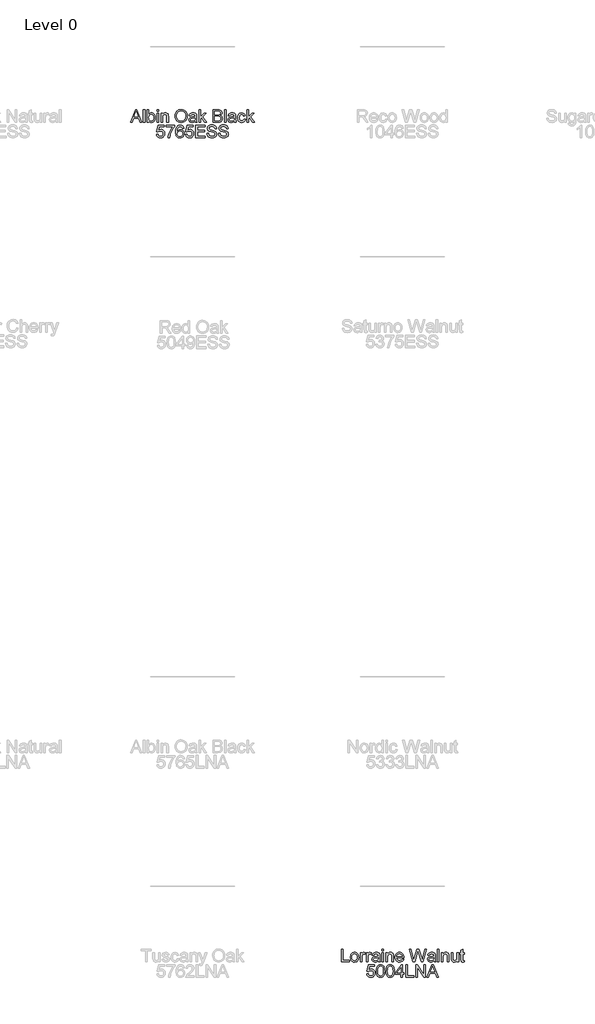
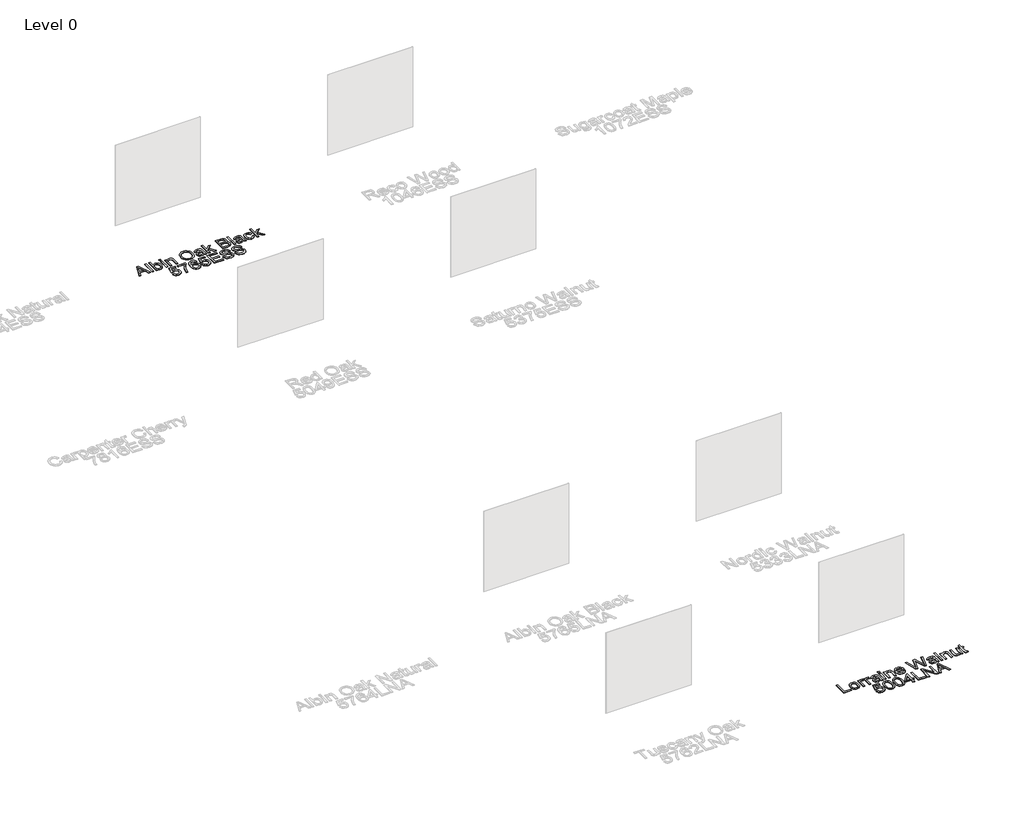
# One storey, part 37 of 43: 2 proxies.
"""IFC4 building model written with IfcOpenShell, lengths in millimetres."""

from ifc_helpers import new_model, si_unit, origin, origin_with_axes, place, context, project, spatial, polyline, outline, extrude, element, save

model = new_model("IFC4")

# Units and contexts
model_context = context("Model", 3, world=origin())
ifc_project = project(units=[si_unit("LENGTHUNIT", "METRE", prefix="MILLI")], contexts=[model_context])

# Site, building, storey
site = spatial("IfcSite", under=ifc_project)
building = spatial("IfcBuilding", under=site)
storey = spatial("IfcBuildingStorey", under=building, Name="Level 0", Elevation=0.0)

# Proxies
placement = place(None, origin())
element("IfcBuildingElementProxy", 1, Name="300mm Arial", ObjectType="300mm Arial", at=placement, inside=storey, context=model_context, shape_type="SweptSolid", body=[
    extrude(outline(polyline([(26068.6169131, -7003.860494), (26188.9143255, -6702.4915635), (26220.9936355, -6702.4915635), (26341.2910479, -7003.860494), (26301.4862161, -7003.860494), (26266.9788849, -6909.6827032), (26142.8554997, -6909.6827032), (26108.421745, -7003.860494), (26068.6169131, -7003.860494)]), holes=[polyline([(26156.6878628, -6872.0115869), (26253.2200983, -6872.0115869), (26226.070407, -6797.9201531), (26204.9539805, -6740.1626798), (26186.1919988, -6791.44543), (26156.6878628, -6872.0115869)])]), origin_with_axes(), (0.0, 0.0, 1.0), 10.0),
    extrude(outline(polyline([(26376.8284487, -7003.860494), (26376.8284487, -6702.4915635), (26414.499565, -6702.4915635), (26414.499565, -7003.860494), (26376.8284487, -7003.860494)])), origin_with_axes(), (0.0, 0.0, 1.0), 10.0),
    extrude(outline(polyline([(26508.6773557, -7003.860494), (26471.0062394, -7003.860494), (26471.0062394, -6702.4915635), (26508.6773557, -6702.4915635), (26508.6773557, -6814.2541137), (26521.0657819, -6798.3202248), (26535.0544948, -6786.9388755), (26550.6434943, -6780.110066), (26567.8327806, -6777.8337961), (26587.2385558, -6779.8847383), (26605.5774733, -6786.0375646), (26621.8010693, -6795.9059992), (26634.8608801, -6809.1037657), (26645.0971966, -6825.5021057), (26652.8503096, -6844.9722603), (26657.7339431, -6866.7048891), (26659.361821, -6889.8906519), (26657.6764616, -6916.64487), (26652.6203834, -6940.1801206), (26644.1935864, -6960.4964038), (26632.3960707, -6977.5937195), (26618.2349132, -6991.1455725), (26602.7171908, -7000.8254675), (26585.8429035, -7006.6334045), (26567.6120514, -7008.5693835), (26549.8571466, -7006.0723845), (26534.1163957, -6998.5813874), (26520.3897988, -6986.0963921), (26508.6773557, -6968.6173988), (26508.6773557, -7003.860494)]), holes=[polyline([(26508.6773557, -6891.6564855), (26511.2525297, -6923.0736078), (26518.9780516, -6944.3371872), (26528.1061236, -6955.9576597), (26538.7149206, -6964.2579972), (26550.8044427, -6969.2381997), (26564.3746898, -6970.8982672), (26586.1165157, -6966.0054367), (26604.6945565, -6951.3269451), (26617.4416676, -6926.9547629), (26621.6907047, -6892.9808606), (26617.6164116, -6858.5103177), (26605.3935323, -6834.414047), (26587.3949057, -6820.2321961), (26565.9933706, -6815.5049125), (26544.2515447, -6820.397743), (26525.6735039, -6835.0762346), (26512.9263928, -6859.0069584), (26508.6773557, -6891.6564855)])]), origin_with_axes(), (0.0, 0.0, 1.0), 10.0),
    extrude(outline(polyline([(26701.7418268, -6740.1626798), (26701.7418268, -6702.4915635), (26739.4129431, -6702.4915635), (26739.4129431, -6740.1626798), (26701.7418268, -6740.1626798)])), origin_with_axes(), (0.0, 0.0, 1.0), 10.0),
    extrude(outline(polyline([(26701.7418268, -7003.860494), (26701.7418268, -6782.5426857), (26739.4129431, -6782.5426857), (26739.4129431, -7003.860494), (26701.7418268, -7003.860494)])), origin_with_axes(), (0.0, 0.0, 1.0), 10.0),
    extrude(outline(polyline([(26795.9196176, -7003.860494), (26795.9196176, -6782.5426857), (26833.5907339, -6782.5426857), (26833.5907339, -6813.4447733), (26846.6781359, -6797.8649708), (26862.3958941, -6786.7365404), (26880.7440086, -6780.0594822), (26901.7224794, -6777.8337961), (26920.2913231, -6779.6272209), (26937.2966683, -6785.0074951), (26951.4785192, -6793.303234), (26961.57688, -6803.8430532), (26972.8708573, -6831.5445674), (26974.85742, -6867.964885), (26974.85742, -7003.860494), (26937.1863037, -7003.860494), (26937.1863037, -6873.0416565), (26932.8452962, -6839.7115477), (26926.8396226, -6829.7879309), (26917.504617, -6822.0900002), (26905.5392551, -6817.1511844), (26891.6425127, -6815.5049125), (26869.5787901, -6819.2021265), (26850.7708231, -6830.2937687), (26843.254534, -6839.3482643), (26837.8857562, -6851.7228949), (26833.5907339, -6886.4325611), (26833.5907339, -7003.860494), (26795.9196176, -7003.860494)])), origin_with_axes(), (0.0, 0.0, 1.0), 10.0),
    extrude(outline(polyline([(27134.9596643, -6857.1491543), (27137.4704589, -6821.8002931), (27145.0028428, -6790.5073309), (27157.5568159, -6763.2702677), (27175.1323782, -6740.0891034), (27196.6764675, -6721.5800406), (27221.1360217, -6708.3592814), (27248.5110407, -6700.4268258), (27278.8015244, -6697.782674), (27318.3304448, -6702.7490809), (27353.7758751, -6717.6483017), (27383.2064347, -6741.4318727), (27404.6907432, -6773.0513302), (27417.8241304, -6810.9799639), (27422.2019262, -6853.6910636), (27417.5942042, -6896.9723803), (27403.7710382, -6935.4344429), (27381.4957834, -6967.1090827), (27351.5317949, -6990.028131), (27316.3898673, -7003.9340704), (27278.5807952, -7008.5693835), (27238.4448696, -7003.4466267), (27202.7971042, -6988.0783564), (27173.440121, -6963.853327), (27152.1765417, -6932.1602931), (27139.2638837, -6895.6939903), (27134.9596643, -6857.1491543)]), holes=[polyline([(27172.6307806, -6857.5170363), (27174.5138766, -6882.4916252), (27180.1631645, -6904.661114), (27189.5786443, -6924.0255025), (27202.760316, -6940.5847908), (27218.7838762, -6953.8469367), (27236.7250212, -6963.3198981), (27256.5837512, -6969.0036749), (27278.360066, -6970.8982672), (27300.5088614, -6968.9852808), (27320.6021161, -6963.2463217), (27338.6398302, -6953.6813898), (27354.6220036, -6940.2904852), (27367.7071064, -6923.381709), (27377.0536083, -6903.2631624), (27382.6615095, -6879.9348454), (27384.5308099, -6853.396758), (27381.3302365, -6820.0482551), (27371.7285164, -6791.2247008), (27355.97397, -6767.6526619), (27334.3149175, -6750.0587055), (27308.1860988, -6739.1050191), (27279.0222536, -6735.4537903), (27258.0023961, -6737.2127261), (27238.5000519, -6742.4895335), (27220.5152208, -6751.2842124), (27204.047903, -6763.5967629), (27190.302912, -6780.0203948), (27180.4850612, -6801.1483176), (27174.5943508, -6826.9805314), (27172.6307806, -6857.5170363)])]), origin_with_axes(), (0.0, 0.0, 1.0), 10.0),
    extrude(outline(polyline([(27610.5575077, -6975.6071568), (27592.5588811, -6991.0398064), (27574.0268256, -7001.1381672), (27554.5382769, -7006.7115794), (27533.6701707, -7008.5693835), (27502.188669, -7004.0996173), (27478.966118, -6990.6903186), (27464.6463114, -6970.3280501), (27459.8730425, -6944.9993748), (27461.6756642, -6929.3827841), (27467.0835296, -6915.2009331), (27475.4252538, -6903.0608273), (27486.0294523, -6893.5694718), (27512.4065914, -6881.2086368), (27545.0009361, -6875.5432541), (27583.518181, -6869.5835657), (27610.3367785, -6862.5938078), (27610.5575077, -6854.2060983), (27607.9639396, -6837.3938912), (27600.1832354, -6826.3942195), (27582.7824171, -6818.2272392), (27558.5389936, -6815.5049125), (27536.0981919, -6817.3167313), (27520.4264189, -6822.7521878), (27509.7394469, -6832.8045633), (27502.2530483, -6848.4671392), (27464.581932, -6843.7582497), (27471.1210345, -6823.156858), (27480.8791044, -6806.9700502), (27494.7666497, -6794.590821), (27513.6941784, -6785.4121652), (27536.8431529, -6779.7283884), (27563.3950359, -6777.8337961), (27588.861667, -6779.5076592), (27609.0491915, -6784.5292485), (27624.2703091, -6792.0800264), (27634.8377194, -6801.3414556), (27641.8458714, -6812.7917827), (27646.389214, -6826.9092543), (27648.228624, -6859.8714811), (27648.228624, -6906.7396473), (27650.1416104, -6972.1858542), (27657.6464031, -7003.860494), (27619.9752868, -7003.860494), (27610.5575077, -6975.6071568)]), holes=[polyline([(27610.5575077, -6900.2649241), (27549.7834021, -6911.8164188), (27517.3729983, -6917.9232599), (27502.6945067, -6927.8560738), (27497.5441588, -6942.3506244), (27500.349259, -6953.5526311), (27508.7645596, -6962.7312869), (27522.6061197, -6968.8565221), (27541.6899982, -6970.8982672), (27561.9235079, -6968.64499), (27579.8025729, -6961.8851583), (27594.2971235, -6951.9247533), (27604.3770902, -6940.069756), (27608.8468564, -6927.8560738), (27610.3367785, -6910.933502), (27610.5575077, -6900.2649241)])]), origin_with_axes(), (0.0, 0.0, 1.0), 10.0),
    extrude(outline(polyline([(27700.0264089, -7003.860494), (27700.0264089, -6702.4915635), (27737.6975252, -6702.4915635), (27737.6975252, -6864.4332178), (27822.1632313, -6782.5426857), (27874.2553218, -6782.5426857), (27788.7595462, -6865.4632874), (27878.9642114, -7003.860494), (27834.9655247, -7003.860494), (27761.7570077, -6891.6564855), (27737.6975252, -6914.9802039), (27737.6975252, -7003.860494), (27700.0264089, -7003.860494)])), origin_with_axes(), (0.0, 0.0, 1.0), 10.0),
    extrude(outline(polyline([(28034.3575661, -7003.860494), (28034.3575661, -6702.4915635), (28149.3574778, -6702.4915635), (28180.9861324, -6704.7080526), (28205.6802113, -6711.3575196), (28224.6077399, -6722.6055116), (28238.9367437, -6738.6175755), (28247.9590496, -6757.4531336), (28250.9664849, -6777.1716086), (28248.4372962, -6795.317388), (28240.84973, -6812.3779155), (28228.1486041, -6827.3047274), (28210.2787362, -6839.0493601), (28231.625089, -6850.1961846), (28247.3980295, -6867.1555446), (28257.1377054, -6888.8054), (28260.384264, -6914.0237108), (28258.1677749, -6935.0389697), (28251.5183079, -6954.5275184), (28241.5946911, -6971.1006023), (28229.5557528, -6983.3694669), (28214.8128818, -6992.253817), (28196.777467, -6998.6733578), (28148.474561, -7003.860494), (28034.3575661, -7003.860494)]), holes=[polyline([(28072.0286824, -6824.9226915), (28140.8226155, -6824.9226915), (28180.9953294, -6821.68533), (28195.0576187, -6816.1027207), (28205.1651765, -6807.7426024), (28211.2628206, -6796.7337336), (28213.2953686, -6783.2048733), (28211.4007763, -6770.071486), (28205.7169995, -6758.630356), (28196.5015555, -6749.7000206), (28184.0119618, -6744.0990172), (28135.5986912, -6740.1626798), (28072.0286824, -6740.1626798), (28072.0286824, -6824.9226915)]), polyline([(28072.0286824, -6966.1893777), (28149.2839014, -6966.1893777), (28177.2429331, -6964.7178497), (28200.8977454, -6956.5140812), (28216.5695183, -6939.7754504), (28221.1772403, -6927.9480443), (28222.7131477, -6914.3915928), (28220.9105259, -6898.6462434), (28215.5026606, -6885.1081859), (28206.0572903, -6874.5223815), (28192.1421539, -6867.6337912), (28172.432876, -6863.8538037), (28145.6050815, -6862.5938078), (28072.0286824, -6862.5938078), (28072.0286824, -6966.1893777)])]), origin_with_axes(), (0.0, 0.0, 1.0), 10.0),
    extrude(outline(polyline([(28307.4731594, -7003.860494), (28307.4731594, -6702.4915635), (28345.1442757, -6702.4915635), (28345.1442757, -7003.860494), (28307.4731594, -7003.860494)])), origin_with_axes(), (0.0, 0.0, 1.0), 10.0),
    extrude(outline(polyline([(28542.9176363, -6975.6071568), (28524.9190097, -6991.0398064), (28506.3869541, -7001.1381672), (28486.8984055, -7006.7115794), (28466.0302993, -7008.5693835), (28434.5487975, -7004.0996173), (28411.3262466, -6990.6903186), (28397.0064399, -6970.3280501), (28392.233171, -6944.9993748), (28394.0357928, -6929.3827841), (28399.4436581, -6915.2009331), (28407.7853824, -6903.0608273), (28418.3895809, -6893.5694718), (28444.76672, -6881.2086368), (28477.3610647, -6875.5432541), (28515.8783096, -6869.5835657), (28542.6969071, -6862.5938078), (28542.9176363, -6854.2060983), (28540.3240682, -6837.3938912), (28532.543364, -6826.3942195), (28515.1425456, -6818.2272392), (28490.8991221, -6815.5049125), (28468.4583204, -6817.3167313), (28452.7865474, -6822.7521878), (28442.0995755, -6832.8045633), (28434.6131769, -6848.4671392), (28396.9420606, -6843.7582497), (28403.481163, -6823.156858), (28413.239233, -6806.9700502), (28427.1267783, -6794.590821), (28446.0543069, -6785.4121652), (28469.2032815, -6779.7283884), (28495.7551645, -6777.8337961), (28521.2217956, -6779.5076592), (28541.4093201, -6784.5292485), (28556.6304376, -6792.0800264), (28567.1978479, -6801.3414556), (28574.206, -6812.7917827), (28578.7493426, -6826.9092543), (28580.5887526, -6859.8714811), (28580.5887526, -6906.7396473), (28582.5017389, -6972.1858542), (28590.0065316, -7003.860494), (28552.3354153, -7003.860494), (28542.9176363, -6975.6071568)]), holes=[polyline([(28542.9176363, -6900.2649241), (28482.1435307, -6911.8164188), (28449.7331269, -6917.9232599), (28435.0546353, -6927.8560738), (28429.9042873, -6942.3506244), (28432.7093876, -6953.5526311), (28441.1246882, -6962.7312869), (28454.9662483, -6968.8565221), (28474.0501268, -6970.8982672), (28494.2836365, -6968.64499), (28512.1627015, -6961.8851583), (28526.6572521, -6951.9247533), (28536.7372187, -6940.069756), (28541.206985, -6927.8560738), (28542.6969071, -6910.933502), (28542.9176363, -6900.2649241)])]), origin_with_axes(), (0.0, 0.0, 1.0), 10.0),
    extrude(outline(polyline([(28773.6532236, -6923.8093718), (28811.3243399, -6928.5182614), (28800.821309, -6962.0231141), (28781.0844399, -6987.3425924), (28753.9715369, -7003.2626857), (28721.3404039, -7008.5693835), (28700.2124811, -7006.7184772), (28681.2688576, -7001.1657584), (28664.5095335, -6991.9112269), (28649.9345087, -6978.9548829), (28638.1369929, -6962.5404481), (28629.710196, -6942.9116444), (28624.6541178, -6920.0684718), (28622.9687584, -6894.0109302), (28625.847435, -6860.4876834), (28634.4834649, -6831.4342028), (28649.0148037, -6807.9725286), (28669.5794072, -6791.2247008), (28694.1815156, -6781.1815223), (28720.8253691, -6777.8337961), (28752.6563588, -6782.4323211), (28778.1045958, -6796.2278959), (28796.3607398, -6818.4847566), (28806.6154504, -6848.4671392), (28768.9443341, -6853.1760288), (28762.110926, -6836.7409006), (28751.4699393, -6824.9594797), (28737.6099852, -6817.8685543), (28721.1196747, -6815.5049125), (28696.7750837, -6820.1586197), (28677.4520819, -6834.1197414), (28664.8429265, -6858.1424357), (28660.6398747, -6892.9808606), (28664.750956, -6928.2883351), (28677.0841999, -6952.3938029), (28696.0577138, -6966.2721511), (28720.0896051, -6970.8982672), (28739.5965479, -6968.0103936), (28755.5902177, -6959.3467726), (28767.2244858, -6944.6866751), (28773.6532236, -6923.8093718)])), origin_with_axes(), (0.0, 0.0, 1.0), 10.0),
    extrude(outline(polyline([(28844.2865667, -7003.860494), (28844.2865667, -6702.4915635), (28881.957683, -6702.4915635), (28881.957683, -6864.4332178), (28966.4233891, -6782.5426857), (29018.5154796, -6782.5426857), (28933.019704, -6865.4632874), (29023.2243692, -7003.860494), (28979.2256825, -7003.860494), (28906.0171655, -6891.6564855), (28881.957683, -6914.9802039), (28881.957683, -7003.860494), (28844.2865667, -7003.860494)])), origin_with_axes(), (0.0, 0.0, 1.0), 10.0),
    extrude(outline(polyline([(26689.969603, -7289.7338254), (26727.6407193, -7285.0249358), (26734.5569008, -7307.6404815), (26746.6234302, -7323.8364863), (26763.7851253, -7333.5761621), (26785.9868037, -7336.8227207), (26812.9893421, -7332.3069693), (26833.2228519, -7318.7597148), (26845.8595984, -7297.7444558), (26850.0718473, -7270.8246908), (26846.1263129, -7245.4776213), (26834.2897097, -7226.0902402), (26814.4700672, -7213.7845875), (26786.5754149, -7209.6827032), (26768.3008768, -7211.3197781), (26753.5028235, -7216.2310027), (26732.3496088, -7233.2271509), (26694.6784925, -7228.5182614), (26727.6407193, -7073.1249066), (26873.616295, -7073.1249066), (26873.616295, -7110.7960229), (26758.1013485, -7110.7960229), (26741.9881171, -7193.790201), (26768.898685, -7177.4562404), (26797.09684, -7172.0115869), (26815.4426552, -7173.6992456), (26832.2939498, -7178.7622215), (26847.6507239, -7187.2005148), (26861.5129773, -7199.0141254), (26872.9885963, -7213.4810848), (26881.185467, -7229.8794248), (26886.1035894, -7248.2091452), (26887.7429636, -7268.470246), (26881.8384575, -7306.1413624), (26874.457825, -7322.9351754), (26864.1249395, -7338.3678251), (26848.4715606, -7354.1729553), (26830.2062195, -7365.4623341), (26809.3289163, -7372.2359613), (26785.8396509, -7374.4938371), (26748.8399192, -7368.6904986), (26733.1612485, -7361.4363255), (26719.3633744, -7351.2804832), (26707.8831569, -7338.7288093), (26699.1574558, -7324.2871418), (26689.969603, -7289.7338254)])), origin_with_axes(), (0.0, 0.0, 1.0), 10.0),
    extrude(outline(polyline([(26920.7051903, -7110.7960229), (26920.7051903, -7073.1249066), (27118.4785509, -7073.1249066), (27118.4785509, -7103.5855358), (27090.2895931, -7139.2608923), (27062.3765467, -7184.6299393), (27037.7560441, -7235.5540045), (27019.4447178, -7287.8944154), (27010.4683972, -7327.0554538), (27005.465202, -7369.7849475), (26967.7940857, -7369.7849475), (26971.8683788, -7330.9550029), (26982.7668829, -7284.8042066), (27000.1952924, -7235.8850983), (27023.8593018, -7188.7502177), (27051.4872396, -7146.1402856), (27080.8074346, -7110.7960229), (26920.7051903, -7110.7960229)])), origin_with_axes(), (0.0, 0.0, 1.0), 10.0),
    extrude(outline(polyline([(27344.5052488, -7148.4671392), (27306.8341325, -7153.1760288), (27300.7640796, -7134.5060175), (27292.5603111, -7121.7589064), (27275.4721924, -7110.0050766), (27254.8156184, -7106.0871334), (27237.3044354, -7108.3680017), (27220.823322, -7115.2106069), (27206.6690622, -7129.622384), (27195.1083705, -7149.4604206), (27187.3000752, -7177.5206198), (27184.4030045, -7216.5988847), (27199.5137574, -7198.9681401), (27217.6227486, -7186.5429257), (27237.7183026, -7179.1760888), (27258.7887439, -7176.7204764), (27276.8885381, -7178.3989381), (27293.5903806, -7183.4343229), (27308.8942716, -7191.8266309), (27322.8002111, -7203.5758621), (27334.3563042, -7217.9830407), (27342.6106565, -7234.349191), (27347.5632679, -7252.6743129), (27349.2141383, -7272.9584064), (27346.1055355, -7299.9333537), (27336.7797269, -7324.9401323), (27322.0092648, -7346.1485293), (27302.5667013, -7361.7283318), (27279.3349533, -7371.3024607), (27253.1969376, -7374.4938371), (27230.740041, -7372.3785156), (27210.4582468, -7366.0325512), (27192.3515548, -7355.4559438), (27176.4199652, -7340.6486935), (27163.4314315, -7320.9854009), (27154.1539074, -7295.8406665), (27148.587393, -7265.2144904), (27146.7318882, -7229.1068726), (27148.7920273, -7188.6260575), (27154.9724449, -7154.0773396), (27165.2731407, -7125.4607189), (27179.6941149, -7102.7761954), (27195.3245012, -7087.7436174), (27213.447288, -7077.0060617), (27234.0624753, -7070.5635282), (27257.1700631, -7068.4160171), (27290.2242604, -7073.7319119), (27316.6933699, -7089.6795964), (27335.2346225, -7115.0082718), (27344.5052488, -7148.4671392)]), holes=[polyline([(27184.4030045, -7272.3697952), (27186.5827053, -7289.0624407), (27193.1218078, -7305.0009282), (27203.2753508, -7318.7045325), (27216.2983735, -7328.6925287), (27232.0161317, -7334.7901727), (27250.2538816, -7336.8227207), (27275.1135074, -7332.6104719), (27294.6572384, -7319.9737254), (27307.3215761, -7300.1080976), (27311.543022, -7274.2092052), (27307.3767584, -7249.3495793), (27294.8779676, -7230.3944595), (27275.0031428, -7218.3923095), (27248.7087772, -7214.3915928), (27223.8859396, -7218.3923095), (27203.128198, -7230.3944595), (27189.0843029, -7248.8897269), (27184.4030045, -7272.3697952)])]), origin_with_axes(), (0.0, 0.0, 1.0), 10.0),
    extrude(outline(polyline([(27382.1763651, -7289.7338254), (27419.8474814, -7285.0249358), (27426.7636629, -7307.6404815), (27438.8301923, -7323.8364863), (27455.9918874, -7333.5761621), (27478.1935658, -7336.8227207), (27505.1961043, -7332.3069693), (27525.429614, -7318.7597148), (27538.0663605, -7297.7444558), (27542.2786094, -7270.8246908), (27538.333075, -7245.4776213), (27526.4964718, -7226.0902402), (27506.6768293, -7213.7845875), (27478.782177, -7209.6827032), (27460.5076389, -7211.3197781), (27445.7095857, -7216.2310027), (27424.5563709, -7233.2271509), (27386.8852546, -7228.5182614), (27419.8474814, -7073.1249066), (27565.8230571, -7073.1249066), (27565.8230571, -7110.7960229), (27450.3081106, -7110.7960229), (27434.1948792, -7193.790201), (27461.1054471, -7177.4562404), (27489.3036021, -7172.0115869), (27507.6494173, -7173.6992456), (27524.500712, -7178.7622215), (27539.857486, -7187.2005148), (27553.7197394, -7199.0141254), (27565.1953584, -7213.4810848), (27573.3922291, -7229.8794248), (27578.3103516, -7248.2091452), (27579.9497257, -7268.470246), (27574.0452197, -7306.1413624), (27566.6645871, -7322.9351754), (27556.3317016, -7338.3678251), (27540.6783227, -7354.1729553), (27522.4129816, -7365.4623341), (27501.5356784, -7372.2359613), (27478.046413, -7374.4938371), (27441.0466814, -7368.6904986), (27425.3680106, -7361.4363255), (27411.5701365, -7351.2804832), (27400.089919, -7338.7288093), (27391.3642179, -7324.2871418), (27382.1763651, -7289.7338254)])), origin_with_axes(), (0.0, 0.0, 1.0), 10.0),
    extrude(outline(polyline([(27627.0386211, -7369.7849475), (27627.0386211, -7068.4160171), (27843.6475398, -7068.4160171), (27843.6475398, -7106.0871334), (27664.7097374, -7106.0871334), (27664.7097374, -7195.5560346), (27834.2297608, -7195.5560346), (27834.2297608, -7233.2271509), (27664.7097374, -7233.2271509), (27664.7097374, -7332.1138312), (27848.3564294, -7332.1138312), (27848.3564294, -7369.7849475), (27627.0386211, -7369.7849475)])), origin_with_axes(), (0.0, 0.0, 1.0), 10.0),
    extrude(outline(polyline([(27890.7364352, -7266.1893777), (27928.4075515, -7266.1893777), (27932.730165, -7287.0942721), (27940.5476574, -7303.8972822), (27952.7429455, -7317.2330045), (27970.1989462, -7327.7360355), (27991.5361019, -7334.5510494), (28015.3748552, -7336.8227207), (28036.362523, -7335.1028724), (28054.7382287, -7329.9433274), (28069.6282524, -7321.7763471), (28080.1588745, -7311.0341929), (28086.4220655, -7298.700949), (28088.5097958, -7285.7606998), (28086.9462973, -7273.1515444), (28082.2558019, -7262.2530403), (28072.7276582, -7252.9548229), (28056.651215, -7245.1465276), (28001.8000096, -7230.7623415), (27965.7935593, -7221.2433949), (27942.7549493, -7212.1843008), (27924.0021646, -7199.510766), (27910.7124276, -7184.1516928), (27902.7937676, -7166.4381747), (27900.1542143, -7146.7013056), (27903.419167, -7124.637583), (27913.2140251, -7104.0637824), (27929.2812713, -7086.6261758), (27951.363388, -7073.9710352), (27977.8692858, -7066.2731044), (28007.2078749, -7063.7071275), (28038.9928793, -7066.3926661), (28066.8047581, -7074.4492818), (28089.65023, -7087.7114277), (28106.5360136, -7106.013557), (28117.2229855, -7128.2152354), (28121.4720226, -7153.1760288), (28083.8009063, -7153.1760288), (28076.8847248, -7130.6984389), (28062.4637506, -7114.4748429), (28039.9309784, -7104.6523936), (28008.6794029, -7101.3782438), (27976.6920634, -7104.6156054), (27954.7479024, -7114.3276901), (27942.0559735, -7128.6199056), (27937.8253306, -7145.5976597), (27940.8235689, -7160.0738162), (27949.8182836, -7171.7172813), (27971.081863, -7182.1283418), (28011.3281532, -7192.7601314), (28052.8620305, -7202.8584922), (28077.9883708, -7211.669266), (28099.4634822, -7225.3360821), (28114.4454765, -7242.2034716), (28123.2470532, -7262.0874934), (28126.1809121, -7284.8042066), (28122.8055948, -7308.0267576), (28112.6796429, -7329.869751), (28096.2169236, -7348.668521), (28073.8313042, -7362.7584014), (28046.9115392, -7371.5599781), (28016.8463832, -7374.4938371), (27979.938622, -7371.3300519), (27949.5607662, -7361.8386964), (27925.363328, -7345.9829824), (27906.9968194, -7323.7261217), (27895.2062015, -7296.6132187), (27890.7364352, -7266.1893777)])), origin_with_axes(), (0.0, 0.0, 1.0), 10.0),
    extrude(outline(polyline([(28168.560918, -7266.1893777), (28206.2320343, -7266.1893777), (28210.5546477, -7287.0942721), (28218.3721401, -7303.8972822), (28230.5674283, -7317.2330045), (28248.0234289, -7327.7360355), (28269.3605847, -7334.5510494), (28293.1993379, -7336.8227207), (28314.1870058, -7335.1028724), (28332.5627114, -7329.9433274), (28347.4527352, -7321.7763471), (28357.9833573, -7311.0341929), (28364.2465483, -7298.700949), (28366.3342786, -7285.7606998), (28364.7707801, -7273.1515444), (28360.0802847, -7262.2530403), (28350.552141, -7252.9548229), (28334.4756978, -7245.1465276), (28279.6244923, -7230.7623415), (28243.618042, -7221.2433949), (28220.5794321, -7212.1843008), (28201.8266474, -7199.510766), (28188.5369103, -7184.1516928), (28180.6182504, -7166.4381747), (28177.9786971, -7146.7013056), (28181.2436498, -7124.637583), (28191.0385079, -7104.0637824), (28207.105754, -7086.6261758), (28229.1878708, -7073.9710352), (28255.6937685, -7066.2731044), (28285.0323576, -7063.7071275), (28316.817362, -7066.3926661), (28344.6292409, -7074.4492818), (28367.4747128, -7087.7114277), (28384.3604963, -7106.013557), (28395.0474683, -7128.2152354), (28399.2965053, -7153.1760288), (28361.625389, -7153.1760288), (28354.7092075, -7130.6984389), (28340.2882333, -7114.4748429), (28317.7554611, -7104.6523936), (28286.5038856, -7101.3782438), (28254.5165461, -7104.6156054), (28232.5723851, -7114.3276901), (28219.8804563, -7128.6199056), (28215.6498134, -7145.5976597), (28218.6480516, -7160.0738162), (28227.6427664, -7171.7172813), (28248.9063457, -7182.1283418), (28289.152636, -7192.7601314), (28330.6865132, -7202.8584922), (28355.8128535, -7211.669266), (28377.287965, -7225.3360821), (28392.2699592, -7242.2034716), (28401.071536, -7262.0874934), (28404.0053949, -7284.8042066), (28400.6300776, -7308.0267576), (28390.5041257, -7329.869751), (28374.0414064, -7348.668521), (28351.655787, -7362.7584014), (28324.736022, -7371.5599781), (28294.6708659, -7374.4938371), (28257.7631048, -7371.3300519), (28227.385249, -7361.8386964), (28203.1878108, -7345.9829824), (28184.8213022, -7323.7261217), (28173.0306842, -7296.6132187), (28168.560918, -7266.1893777)])), origin_with_axes(), (0.0, 0.0, 1.0), 10.0),
])
element("IfcBuildingElementProxy", 2, Name="300mm Arial", ObjectType="300mm Arial", at=placement, inside=storey, context=model_context, shape_type="SweptSolid", body=[
    extrude(outline(polyline([(31096.6495211, -26998.860494), (31096.6495211, -26697.4915635), (31134.3206374, -26697.4915635), (31134.3206374, -26961.1893777), (31285.0051027, -26961.1893777), (31285.0051027, -26998.860494), (31096.6495211, -26998.860494)])), origin_with_axes(), (0.0, 0.0, 1.0), 10.0),
    extrude(outline(polyline([(31313.2584399, -26888.2015898), (31315.2955864, -26859.5389839), (31321.4070261, -26834.8403064), (31331.5927588, -26814.1055575), (31345.8527847, -26797.334737), (31360.2093795, -26786.6155754), (31376.0558965, -26778.9590314), (31393.3923355, -26774.3651049), (31412.2186966, -26772.8337961), (31433.0017301, -26774.698498), (31451.7936022, -26780.2926036), (31468.5943131, -26789.6161129), (31483.4038627, -26802.669026), (31495.4910855, -26819.0098843), (31504.124816, -26838.1972296), (31509.3050544, -26860.2310619), (31511.0318005, -26885.1113811), (31507.9783799, -26923.1687735), (31498.8181183, -26952.1394806), (31483.8177299, -26973.8353213), (31463.2439293, -26990.0681143), (31438.8073678, -27000.1940662), (31412.2186966, -27003.5693835), (31391.1321605, -27001.7115794), (31372.1655444, -26996.1381672), (31355.3188483, -26986.8491468), (31340.5920721, -26973.8445183), (31328.633608, -26957.3450108), (31320.091848, -26937.5713536), (31314.9667919, -26914.5235466), (31313.2584399, -26888.2015898)]), holes=[polyline([(31350.9295562, -26888.1280134), (31355.2889578, -26922.2214773), (31368.3671628, -26946.5108861), (31388.0488495, -26961.0514219), (31412.2186966, -26965.8982672), (31436.2781791, -26961.0238308), (31455.9230776, -26946.4005215), (31469.0012826, -26921.789216), (31473.3606842, -26886.950791), (31468.9736914, -26853.8506085), (31455.812713, -26829.8922936), (31436.1402233, -26815.3517577), (31412.2186966, -26810.5049125), (31388.0488495, -26815.3333636), (31368.3671628, -26829.8187172), (31355.2889578, -26854.0529436), (31350.9295562, -26888.1280134)])]), origin_with_axes(), (0.0, 0.0, 1.0), 10.0),
    extrude(outline(polyline([(31553.4118063, -26998.860494), (31553.4118063, -26777.5426857), (31586.3740331, -26777.5426857), (31586.3740331, -26810.2841833), (31598.5509272, -26791.3014723), (31609.771328, -26780.1178596), (31621.0285171, -26774.654812), (31633.3157757, -26772.8337961), (31652.0777575, -26775.7400639), (31671.1340448, -26784.4588672), (31658.5524806, -26818.2304343), (31645.3087287, -26812.4362929), (31632.0649769, -26810.5049125), (31620.8169849, -26812.3627165), (31610.7646094, -26817.9361288), (31602.6436144, -26826.8020848), (31597.1897638, -26838.5375205), (31592.6096329, -26859.5803706), (31591.0829227, -26882.5362071), (31591.0829227, -26998.860494), (31553.4118063, -26998.860494)])), origin_with_axes(), (0.0, 0.0, 1.0), 10.0),
    extrude(outline(polyline([(31694.6784925, -26998.860494), (31694.6784925, -26777.5426857), (31727.6407193, -26777.5426857), (31727.6407193, -26810.2841833), (31739.8176133, -26791.3014723), (31751.0380142, -26780.1178596), (31762.2952032, -26774.654812), (31774.5824619, -26772.8337961), (31793.3444436, -26775.7400639), (31812.400731, -26784.4588672), (31799.8191667, -26818.2304343), (31786.5754149, -26812.4362929), (31773.3316631, -26810.5049125), (31762.0836711, -26812.3627165), (31752.0312955, -26817.9361288), (31743.9103005, -26826.8020848), (31738.4564499, -26838.5375205), (31733.8763191, -26859.5803706), (31732.3496088, -26882.5362071), (31732.3496088, -26998.860494), (31694.6784925, -26998.860494)])), origin_with_axes(), (0.0, 0.0, 1.0), 10.0),
    extrude(outline(polyline([(31977.2118648, -26970.6071568), (31959.2132382, -26986.0398064), (31940.6811827, -26996.1381672), (31921.192634, -27001.7115794), (31900.3245278, -27003.5693835), (31868.8430261, -26999.0996173), (31845.6204751, -26985.6903186), (31831.3006685, -26965.3280501), (31826.5273996, -26939.9993748), (31828.3300213, -26924.3827841), (31833.7378867, -26910.2009331), (31842.0796109, -26898.0608273), (31852.6838094, -26888.5694718), (31879.0609485, -26876.2086368), (31911.6552933, -26870.5432541), (31950.1725381, -26864.5835657), (31976.9911356, -26857.5938078), (31977.2118648, -26849.2060983), (31974.6182967, -26832.3938912), (31966.8375925, -26821.3942195), (31949.4367742, -26813.2272392), (31925.1933507, -26810.5049125), (31902.752549, -26812.3167313), (31887.080776, -26817.7521878), (31876.393804, -26827.8045633), (31868.9074054, -26843.4671392), (31831.2362891, -26838.7582497), (31837.7753916, -26818.156858), (31847.5334615, -26801.9700502), (31861.4210068, -26789.590821), (31880.3485355, -26780.4121652), (31903.49751, -26774.7283884), (31930.049393, -26772.8337961), (31955.5160241, -26774.5076592), (31975.7035486, -26779.5292485), (31990.9246662, -26787.0800264), (32001.4920765, -26796.3414556), (32008.5002285, -26807.7917827), (32013.0435711, -26821.9092543), (32014.8829811, -26854.8714811), (32014.8829811, -26901.7396473), (32016.7959675, -26967.1858542), (32024.3007602, -26998.860494), (31986.6296439, -26998.860494), (31977.2118648, -26970.6071568)]), holes=[polyline([(31977.2118648, -26895.2649241), (31916.4377592, -26906.8164188), (31884.0273554, -26912.9232599), (31869.3488638, -26922.8560738), (31864.1985159, -26937.3506244), (31867.0036161, -26948.5526311), (31875.4189167, -26957.7312869), (31889.2604768, -26963.8565221), (31908.3443553, -26965.8982672), (31928.577865, -26963.64499), (31946.45693, -26956.8851583), (31960.9514806, -26946.9247533), (31971.0314473, -26935.069756), (31975.5012135, -26922.8560738), (31976.9911356, -26905.933502), (31977.2118648, -26895.2649241)])]), origin_with_axes(), (0.0, 0.0, 1.0), 10.0),
    extrude(outline(polyline([(32066.680766, -26735.1626798), (32066.680766, -26697.4915635), (32104.3518823, -26697.4915635), (32104.3518823, -26735.1626798), (32066.680766, -26735.1626798)])), origin_with_axes(), (0.0, 0.0, 1.0), 10.0),
    extrude(outline(polyline([(32066.680766, -26998.860494), (32066.680766, -26777.5426857), (32104.3518823, -26777.5426857), (32104.3518823, -26998.860494), (32066.680766, -26998.860494)])), origin_with_axes(), (0.0, 0.0, 1.0), 10.0),
    extrude(outline(polyline([(32160.8585568, -26998.860494), (32160.8585568, -26777.5426857), (32198.5296731, -26777.5426857), (32198.5296731, -26808.4447733), (32211.6170751, -26792.8649708), (32227.3348333, -26781.7365404), (32245.6829478, -26775.0594822), (32266.6614186, -26772.8337961), (32285.2302623, -26774.6272209), (32302.2356075, -26780.0074951), (32316.4174584, -26788.303234), (32326.5158192, -26798.8430532), (32337.8097965, -26826.5445674), (32339.7963592, -26862.964885), (32339.7963592, -26998.860494), (32302.1252429, -26998.860494), (32302.1252429, -26868.0416565), (32297.7842354, -26834.7115477), (32291.7785618, -26824.7879309), (32282.4435562, -26817.0900002), (32270.4781943, -26812.1511844), (32256.5814519, -26810.5049125), (32234.5177293, -26814.2021265), (32215.7097623, -26825.2937687), (32208.1934733, -26834.3482643), (32202.8246954, -26846.7228949), (32198.5296731, -26881.4325611), (32198.5296731, -26998.860494), (32160.8585568, -26998.860494)])), origin_with_axes(), (0.0, 0.0, 1.0), 10.0),
    extrude(outline(polyline([(32546.5460405, -26932.9360404), (32583.4813928, -26937.64493), (32570.1732617, -26965.4752029), (32548.9372735, -26986.2789297), (32520.2516749, -26999.2467701), (32484.5947125, -27003.5693835), (32461.2204103, -27001.7046817), (32440.3936908, -26996.1105761), (32422.1145542, -26986.7870668), (32406.3830004, -26973.7341537), (32393.7324583, -26957.3151204), (32384.6963568, -26937.8932503), (32379.2746958, -26915.4685435), (32377.4674755, -26890.0409998), (32379.2930899, -26863.7512327), (32384.7699332, -26840.5792656), (32393.8980052, -26820.5250983), (32406.677306, -26803.5887309), (32422.3674731, -26790.133447), (32440.2281439, -26780.5225298), (32460.2593186, -26774.7559796), (32482.460997, -26772.8337961), (32503.9476048, -26774.751381), (32523.3786719, -26780.5041357), (32540.7541984, -26790.0920602), (32556.0741842, -26803.5151545), (32568.5798728, -26820.4147337), (32577.5125075, -26840.4321128), (32582.8720883, -26863.5672917), (32584.6586152, -26889.8202706), (32584.437886, -26899.9738137), (32415.1385919, -26899.9738137), (32421.6593002, -26928.1719686), (32436.8068414, -26948.902119), (32458.6682289, -26961.6492302), (32485.3304765, -26965.8982672), (32505.3800453, -26963.9300985), (32522.2658288, -26958.0255925), (32535.9878273, -26947.8168672), (32546.5460405, -26932.9360404)]), holes=[polyline([(32415.1385919, -26862.3026974), (32546.9874989, -26862.3026974), (32541.8923333, -26842.4002814), (32531.9043371, -26828.1632482), (32509.941782, -26814.9194964), (32482.3138442, -26810.5049125), (32456.9207895, -26814.0273826), (32435.9239246, -26824.5947929), (32421.3282064, -26841.0667092), (32415.1385919, -26862.3026974)])]), origin_with_axes(), (0.0, 0.0, 1.0), 10.0),
    extrude(outline(polyline([(32798.69236, -26998.860494), (32716.5075223, -26697.4915635), (32755.355861, -26697.4915635), (32803.0333676, -26895.5592297), (32817.7486474, -26956.7012173), (32833.4939968, -26902.622564), (32893.2380328, -26697.4915635), (32949.2296724, -26697.4915635), (32992.6397479, -26846.189466), (33011.2361827, -26901.3717653), (33024.9397871, -26956.7012173), (33039.2136085, -26897.3250633), (33087.3325734, -26697.4915635), (33126.1809121, -26697.4915635), (33043.922498, -26998.860494), (33003.6762077, -26998.860494), (32931.4241839, -26766.359073), (32921.3442172, -26733.9118811), (32910.0134518, -26772.9809489), (32844.1625746, -26998.860494), (32798.69236, -26998.860494)])), origin_with_axes(), (0.0, 0.0, 1.0), 10.0),
    extrude(outline(polyline([(33300.409825, -26970.6071568), (33282.4111984, -26986.0398064), (33263.8791429, -26996.1381672), (33244.3905942, -27001.7115794), (33223.5224881, -27003.5693835), (33192.0409863, -26999.0996173), (33168.8184354, -26985.6903186), (33154.4986287, -26965.3280501), (33149.7253598, -26939.9993748), (33151.5279816, -26924.3827841), (33156.9358469, -26910.2009331), (33165.2775712, -26898.0608273), (33175.8817697, -26888.5694718), (33202.2589087, -26876.2086368), (33234.8532535, -26870.5432541), (33273.3704984, -26864.5835657), (33300.1890958, -26857.5938078), (33300.409825, -26849.2060983), (33297.816257, -26832.3938912), (33290.0355528, -26821.3942195), (33272.6347344, -26813.2272392), (33248.3913109, -26810.5049125), (33225.9505092, -26812.3167313), (33210.2787362, -26817.7521878), (33199.5917643, -26827.8045633), (33192.1053657, -26843.4671392), (33154.4342494, -26838.7582497), (33160.9733518, -26818.156858), (33170.7314217, -26801.9700502), (33184.6189671, -26789.590821), (33203.5464957, -26780.4121652), (33226.6954703, -26774.7283884), (33253.2473533, -26772.8337961), (33278.7139844, -26774.5076592), (33298.9015089, -26779.5292485), (33314.1226264, -26787.0800264), (33324.6900367, -26796.3414556), (33331.6981887, -26807.7917827), (33336.2415314, -26821.9092543), (33338.0809414, -26854.8714811), (33338.0809414, -26901.7396473), (33339.9939277, -26967.1858542), (33347.4987204, -26998.860494), (33309.8276041, -26998.860494), (33300.409825, -26970.6071568)]), holes=[polyline([(33300.409825, -26895.2649241), (33239.6357194, -26906.8164188), (33207.2253157, -26912.9232599), (33192.5468241, -26922.8560738), (33187.3964761, -26937.3506244), (33190.2015763, -26948.5526311), (33198.616877, -26957.7312869), (33212.458437, -26963.8565221), (33231.5423155, -26965.8982672), (33251.7758253, -26963.64499), (33269.6548902, -26956.8851583), (33284.1494409, -26946.9247533), (33294.2294075, -26935.069756), (33298.6991738, -26922.8560738), (33300.1890958, -26905.933502), (33300.409825, -26895.2649241)])]), origin_with_axes(), (0.0, 0.0, 1.0), 10.0),
    extrude(outline(polyline([(33389.8787263, -26998.860494), (33389.8787263, -26697.4915635), (33427.5498426, -26697.4915635), (33427.5498426, -26998.860494), (33389.8787263, -26998.860494)])), origin_with_axes(), (0.0, 0.0, 1.0), 10.0),
    extrude(outline(polyline([(33484.056517, -26998.860494), (33484.056517, -26777.5426857), (33521.7276333, -26777.5426857), (33521.7276333, -26808.4447733), (33534.8150353, -26792.8649708), (33550.5327936, -26781.7365404), (33568.8809081, -26775.0594822), (33589.8593789, -26772.8337961), (33608.4282226, -26774.6272209), (33625.4335678, -26780.0074951), (33639.6154187, -26788.303234), (33649.7137795, -26798.8430532), (33661.0077567, -26826.5445674), (33662.9943195, -26862.964885), (33662.9943195, -26998.860494), (33625.3232032, -26998.860494), (33625.3232032, -26868.0416565), (33620.9821956, -26834.7115477), (33614.9765221, -26824.7879309), (33605.6415164, -26817.0900002), (33593.6761546, -26812.1511844), (33579.7794122, -26810.5049125), (33557.7156895, -26814.2021265), (33538.9077225, -26825.2937687), (33531.3914335, -26834.3482643), (33526.0226556, -26846.7228949), (33521.7276333, -26881.4325611), (33521.7276333, -26998.860494), (33484.056517, -26998.860494)])), origin_with_axes(), (0.0, 0.0, 1.0), 10.0),
    extrude(outline(polyline([(33856.0587906, -26998.860494), (33856.0587906, -26960.8214957), (33842.4287626, -26979.5236966), (33826.5546545, -26992.8824116), (33808.4364663, -27000.8976405), (33788.0741979, -27003.5693835), (33769.7260833, -27001.6931853), (33752.6471617, -26996.0645908), (33738.318158, -26987.6033049), (33728.2197972, -26977.2290327), (33716.9993964, -26949.4907302), (33714.7921044, -26914.4683643), (33714.7921044, -26777.5426857), (33752.4632207, -26777.5426857), (33752.4632207, -26896.7364521), (33754.7440891, -26935.1433324), (33760.2347279, -26947.9548229), (33769.6433099, -26957.6944987), (33782.3444358, -26963.8473251), (33797.7127061, -26965.8982672), (33813.9638933, -26963.8013398), (33829.1666167, -26957.5105577), (33841.7021957, -26947.605335), (33849.9519494, -26934.6650858), (33854.5320803, -26916.9423707), (33856.0587906, -26892.6897502), (33856.0587906, -26777.5426857), (33893.7299069, -26777.5426857), (33893.7299069, -26998.860494), (33856.0587906, -26998.860494)])), origin_with_axes(), (0.0, 0.0, 1.0), 10.0),
    extrude(outline(polyline([(34025.5788139, -26967.4433716), (34030.2877035, -26999.96414), (34002.1079426, -27003.5693835), (33984.0265426, -27002.005885), (33970.5436675, -26997.3153896), (33961.0155238, -26990.0865084), (33954.7983181, -26980.9078526), (33951.3770155, -26965.1441091), (33950.2365813, -26938.1599648), (33950.2365813, -26815.213802), (33921.9832441, -26815.213802), (33921.9832441, -26777.5426857), (33950.2365813, -26777.5426857), (33950.2365813, -26723.758338), (33987.9076976, -26701.6118419), (33987.9076976, -26777.5426857), (34025.5788139, -26777.5426857), (34025.5788139, -26815.213802), (33987.9076976, -26815.213802), (33987.9076976, -26937.0563188), (33989.8942604, -26956.4804881), (33996.3321953, -26963.3598814), (34009.171277, -26965.8982672), (34025.5788139, -26967.4433716)])), origin_with_axes(), (0.0, 0.0, 1.0), 10.0),
    extrude(outline(polyline([(31701.7418268, -27284.7338254), (31739.4129431, -27280.0249358), (31746.3291246, -27302.6404815), (31758.3956541, -27318.8364863), (31775.5573491, -27328.5761621), (31797.7590275, -27331.8227207), (31824.761566, -27327.3069693), (31844.9950757, -27313.7597148), (31857.6318223, -27292.7444558), (31861.8440711, -27265.8246908), (31857.8985367, -27240.4776213), (31846.0619335, -27221.0902402), (31826.242291, -27208.7845875), (31798.3476387, -27204.6827032), (31780.0731006, -27206.3197781), (31765.2750474, -27211.2310027), (31744.1218326, -27228.2271509), (31706.4507163, -27223.5182614), (31739.4129431, -27068.1249066), (31885.3885188, -27068.1249066), (31885.3885188, -27105.7960229), (31769.8735723, -27105.7960229), (31753.7603409, -27188.790201), (31780.6709089, -27172.4562404), (31808.8690638, -27167.0115869), (31827.214879, -27168.6992456), (31844.0661737, -27173.7622215), (31859.4229477, -27182.2005148), (31873.2852012, -27194.0141254), (31884.7608201, -27208.4810848), (31892.9576908, -27224.8794248), (31897.8758133, -27243.2091452), (31899.5151874, -27263.470246), (31893.6106814, -27301.1413624), (31886.2300489, -27317.9351754), (31875.8971633, -27333.3678251), (31860.2437844, -27349.1729553), (31841.9784434, -27360.4623341), (31821.1011401, -27367.2359613), (31797.6118747, -27369.4938371), (31760.6121431, -27363.6904986), (31744.9334723, -27356.4363255), (31731.1355982, -27346.2804832), (31719.6553807, -27333.7288093), (31710.9296796, -27319.2871418), (31701.7418268, -27284.7338254)])), origin_with_axes(), (0.0, 0.0, 1.0), 10.0),
    extrude(outline(polyline([(31932.4774142, -27216.5285035), (31935.2457262, -27168.2899768), (31943.5506622, -27129.8187172), (31957.3094489, -27100.5261133), (31976.4393126, -27079.8235541), (32001.0782092, -27067.5179013), (32031.3640945, -27063.4160171), (32054.5774484, -27065.8440382), (32075.3627811, -27073.1281017), (32092.7452054, -27084.983099), (32105.7498339, -27101.1239216), (32115.5722832, -27121.4126136), (32123.4081697, -27145.7112194), (32128.5401235, -27176.5673217), (32130.2507748, -27216.5285035), (32127.5100539, -27264.4911186), (32119.2878913, -27302.8704077), (32105.6118782, -27332.1906027), (32086.5096056, -27352.9759355), (32061.8155266, -27365.3643617), (32031.3640945, -27369.4938371), (32010.61555, -27367.7004123), (31992.2214502, -27362.3201381), (31976.1817952, -27353.3530145), (31962.496585, -27340.7990414), (31949.3631978, -27318.1053209), (31939.9822069, -27289.828991), (31934.3536124, -27255.9700519), (31932.4774142, -27216.5285035)]), holes=[polyline([(31970.1485305, -27216.4549271), (31974.5631144, -27275.7115194), (31980.0813444, -27295.9795181), (31987.8068663, -27310.0073184), (32007.5253412, -27326.3688702), (32031.3640945, -27331.8227207), (32055.2028478, -27326.3504761), (32074.9213227, -27309.933742), (32082.6468446, -27295.8829491), (32088.1650745, -27275.6195489), (32092.5796585, -27216.4549271), (32088.3122273, -27158.5319069), (32082.9779384, -27138.3305869), (32075.5099339, -27123.9693935), (32055.8282472, -27106.8076984), (32030.9226361, -27101.0871334), (32007.3414002, -27106.1271167), (31988.3954774, -27121.2470667), (31980.4124382, -27136.8820515), (31974.7102672, -27157.9616898), (31970.1485305, -27216.4549271)])]), origin_with_axes(), (0.0, 0.0, 1.0), 10.0),
    extrude(outline(polyline([(32163.2130016, -27216.5285035), (32165.9813136, -27168.2899768), (32174.2862496, -27129.8187172), (32188.0450362, -27100.5261133), (32207.1749, -27079.8235541), (32231.8137966, -27067.5179013), (32262.0996819, -27063.4160171), (32285.3130358, -27065.8440382), (32306.0983685, -27073.1281017), (32323.4807928, -27084.983099), (32336.4854213, -27101.1239216), (32346.3078706, -27121.4126136), (32354.1437571, -27145.7112194), (32359.2757109, -27176.5673217), (32360.9863622, -27216.5285035), (32358.2456413, -27264.4911186), (32350.0234787, -27302.8704077), (32336.3474655, -27332.1906027), (32317.2451929, -27352.9759355), (32292.551114, -27365.3643617), (32262.0996819, -27369.4938371), (32241.3511373, -27367.7004123), (32222.9570376, -27362.3201381), (32206.9173826, -27353.3530145), (32193.2321724, -27340.7990414), (32180.0987851, -27318.1053209), (32170.7177943, -27289.828991), (32165.0891997, -27255.9700519), (32163.2130016, -27216.5285035)]), holes=[polyline([(32200.8841179, -27216.4549271), (32205.2987018, -27275.7115194), (32210.8169317, -27295.9795181), (32218.5424536, -27310.0073184), (32238.2609286, -27326.3688702), (32262.0996819, -27331.8227207), (32285.9384351, -27326.3504761), (32305.6569101, -27309.933742), (32313.382432, -27295.8829491), (32318.9006619, -27275.6195489), (32323.3152459, -27216.4549271), (32319.0478147, -27158.5319069), (32313.7135258, -27138.3305869), (32306.2455213, -27123.9693935), (32286.5638345, -27106.8076984), (32261.6582235, -27101.0871334), (32238.0769876, -27106.1271167), (32219.1310648, -27121.2470667), (32211.1480255, -27136.8820515), (32205.4458546, -27157.9616898), (32200.8841179, -27216.4549271)])]), origin_with_axes(), (0.0, 0.0, 1.0), 10.0),
    extrude(outline(polyline([(32516.3797169, -27364.7849475), (32516.3797169, -27294.1516044), (32379.8219203, -27294.1516044), (32379.8219203, -27256.4804881), (32525.797496, -27068.1249066), (32554.0508332, -27068.1249066), (32554.0508332, -27256.4804881), (32591.7219495, -27256.4804881), (32591.7219495, -27294.1516044), (32554.0508332, -27294.1516044), (32554.0508332, -27364.7849475), (32516.3797169, -27364.7849475)]), holes=[polyline([(32516.3797169, -27256.4804881), (32516.3797169, -27140.0826249), (32426.1750517, -27256.4804881), (32516.3797169, -27256.4804881)])]), origin_with_axes(), (0.0, 0.0, 1.0), 10.0),
    extrude(outline(polyline([(32638.8108449, -27364.7849475), (32638.8108449, -27063.4160171), (32676.4819612, -27063.4160171), (32676.4819612, -27327.1138312), (32827.1664264, -27327.1138312), (32827.1664264, -27364.7849475), (32638.8108449, -27364.7849475)])), origin_with_axes(), (0.0, 0.0, 1.0), 10.0),
    extrude(outline(polyline([(32869.5464323, -27364.7849475), (32869.5464323, -27063.4160171), (32909.866299, -27063.4160171), (33067.3197929, -27302.1714319), (33067.3197929, -27063.4160171), (33104.9909092, -27063.4160171), (33104.9909092, -27364.7849475), (33064.6710425, -27364.7849475), (32907.2175486, -27125.9559562), (32907.2175486, -27364.7849475), (32869.5464323, -27364.7849475)])), origin_with_axes(), (0.0, 0.0, 1.0), 10.0),
    extrude(outline(polyline([(33135.8194204, -27364.7849475), (33256.1168328, -27063.4160171), (33288.1961428, -27063.4160171), (33408.4935552, -27364.7849475), (33368.6887234, -27364.7849475), (33334.1813922, -27270.6071568), (33210.058007, -27270.6071568), (33175.6242523, -27364.7849475), (33135.8194204, -27364.7849475)]), holes=[polyline([(33223.89037, -27232.9360404), (33320.4226056, -27232.9360404), (33293.2729143, -27158.8446066), (33272.1564878, -27101.0871334), (33253.3945061, -27152.3698835), (33223.89037, -27232.9360404)])]), origin_with_axes(), (0.0, 0.0, 1.0), 10.0),
])

save(model, "model.ifc")
